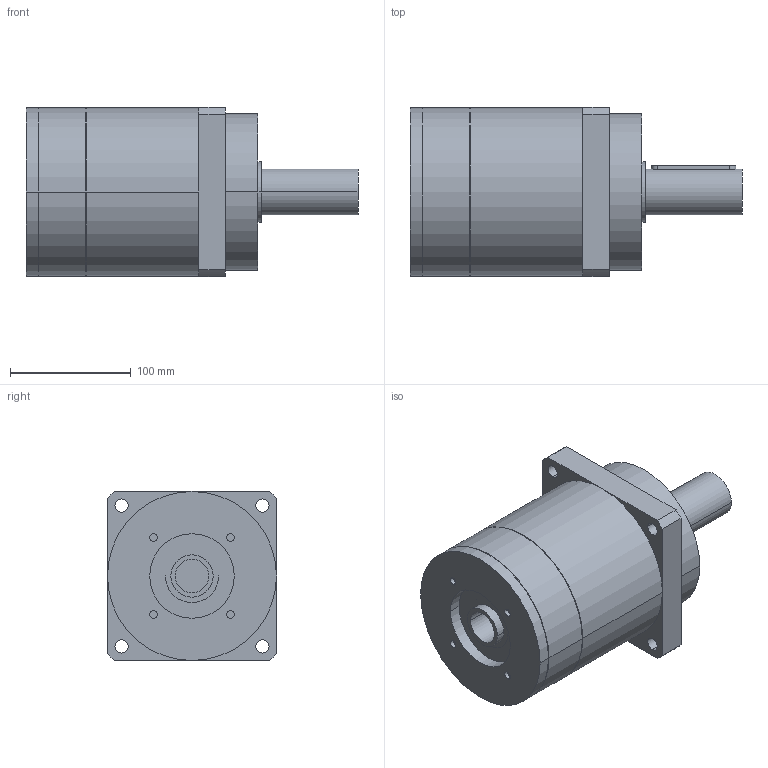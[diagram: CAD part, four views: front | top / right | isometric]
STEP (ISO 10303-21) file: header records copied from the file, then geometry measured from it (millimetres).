
FILE_DESCRIPTION(('CoCreate Modeling STEP Export'),'2;1');
FILE_NAME('GPR150_ig-3-4-5-7_38_B5_28_P15.stp','2014-08-19T16:42:49',(''),(''),'CoCreate Modeling STEP processor for AP214 (Solid Model)','CoCreate Modeling 16.00C 25-Feb-2009 (C) Parametric Technology GmbH','');
FILE_SCHEMA(('AUTOMOTIVE_DESIGN { 1 0 10303 214 1 1 1 1 }'));
Length unit declared in the file: millimetre
Products named in the file (2): GPR150_ig-3-4-5-7_38_B5_28_P15
Assembly tree (1 placements, depth 2):
  GPR150_ig-3-4-5-7_38_B5_28_P15
    GPR150_ig-3-4-5-7_38_B5_28_P15
Bounding box: 275 x 140 x 140 mm (x, y, z)
Volume: 2997363.1 mm3; surface area: 150112.4 mm2
Topology: 1 solids, 1 shells, 88 faces, 223 edges, 153 vertices
Faces by surface type: cylinder 52, plane 30, cone 6
Entity records: 2322 total; most frequent: ORIENTED_EDGE 442, CARTESIAN_POINT 425, DIRECTION 320, EDGE_CURVE 221, VERTEX_POINT 153, AXIS2_PLACEMENT_3D 120, EDGE_LOOP 114, FACE_OUTER_BOUND 88
